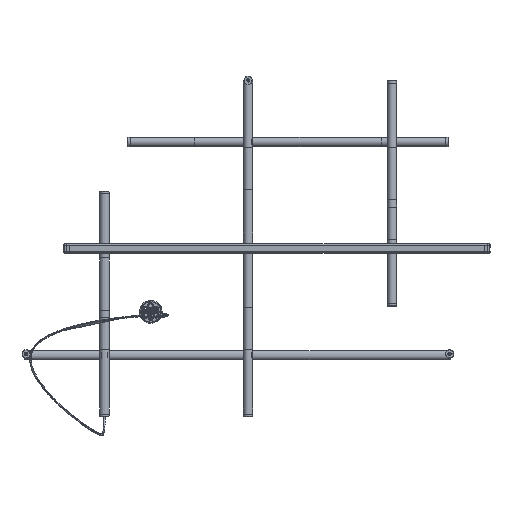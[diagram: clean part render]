
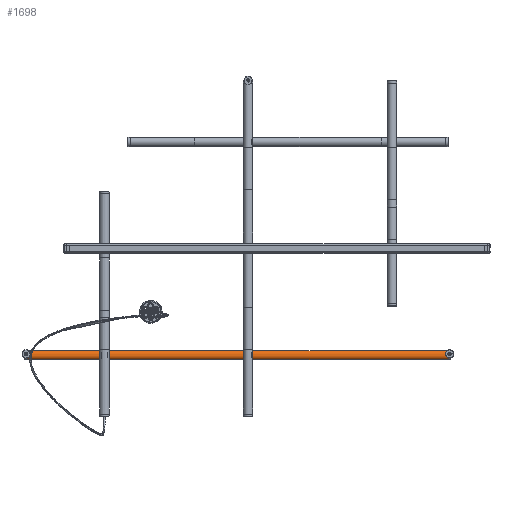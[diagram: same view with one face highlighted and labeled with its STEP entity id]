
A CAD part, top view. The second image highlights one B-rep face of the part: STEP entity #1698.
In plain terms, the highlighted free-form (B-spline) face has degree [1, 2] with [2, 5] control points.
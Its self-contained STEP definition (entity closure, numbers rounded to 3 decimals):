
#1698=ADVANCED_FACE('',(#5350),#53960,.T.);
#5350=FACE_OUTER_BOUND('',#9002,.T.);
#9002=EDGE_LOOP('',(#16573,#16574,#16575,#16576));
#16573=ORIENTED_EDGE('',*,*,#31570,.F.);
#16574=ORIENTED_EDGE('',*,*,#31569,.F.);
#16575=ORIENTED_EDGE('',*,*,#31568,.T.);
#16576=ORIENTED_EDGE('',*,*,#31543,.T.);
#31543=EDGE_CURVE('',#47924,#47925,#44218,.T.);
#31568=EDGE_CURVE('',#47942,#47924,#39051,.T.);
#31569=EDGE_CURVE('',#47942,#47943,#44231,.T.);
#31570=EDGE_CURVE('',#47943,#47925,#39052,.T.);
#39051=B_SPLINE_CURVE_WITH_KNOTS('',1,(#75005,#75006),.UNSPECIFIED.,.F.,
 .F.,(2,2),(-1023.816,0.),.UNSPECIFIED.);
#39052=B_SPLINE_CURVE_WITH_KNOTS('',1,(#75012,#75013),.UNSPECIFIED.,.F.,
 .F.,(2,2),(-1023.816,0.),.UNSPECIFIED.);
#44218=(
BOUNDED_CURVE()
B_SPLINE_CURVE(2,(#74934,#74935,#74936,#74937,#74938),.UNSPECIFIED.,.F.,
 .F.)
B_SPLINE_CURVE_WITH_KNOTS((3,2,3),(10.956,12.526,14.097),
 .UNSPECIFIED.)
CURVE()
GEOMETRIC_REPRESENTATION_ITEM()
RATIONAL_B_SPLINE_CURVE((1.,0.707,1.,0.707,1.))
REPRESENTATION_ITEM('')
);
#44231=(
BOUNDED_CURVE()
B_SPLINE_CURVE(2,(#75007,#75008,#75009,#75010,#75011),.UNSPECIFIED.,.F.,
 .F.)
B_SPLINE_CURVE_WITH_KNOTS((3,2,3),(10.956,12.526,14.097),
 .UNSPECIFIED.)
CURVE()
GEOMETRIC_REPRESENTATION_ITEM()
RATIONAL_B_SPLINE_CURVE((1.,0.707,1.,0.707,1.))
REPRESENTATION_ITEM('')
);
#47924=VERTEX_POINT('',#74883);
#47925=VERTEX_POINT('',#74884);
#47942=VERTEX_POINT('',#74901);
#47943=VERTEX_POINT('',#74902);
#53960=(
BOUNDED_SURFACE()
B_SPLINE_SURFACE(1,2,((#74817,#74818,#74819,#74820,#74821),(#74822,#74823,
#74824,#74825,#74826)),.UNSPECIFIED.,.F.,.F.,.F.)
B_SPLINE_SURFACE_WITH_KNOTS((2,2),(3,2,3),(0.,1023.816),(-14.097,
-12.526,-10.956),.UNSPECIFIED.)
GEOMETRIC_REPRESENTATION_ITEM()
RATIONAL_B_SPLINE_SURFACE(((1.,0.707,1.,0.707,1.),
(1.,0.707,1.,0.707,1.)))
REPRESENTATION_ITEM('')
SURFACE()
);
#74817=CARTESIAN_POINT('',(2258.,-271.,-78.719));
#74818=CARTESIAN_POINT('',(2258.,-271.,-67.219));
#74819=CARTESIAN_POINT('',(2258.,-259.5,-67.219));
#74820=CARTESIAN_POINT('',(2258.,-248.,-67.219));
#74821=CARTESIAN_POINT('',(2258.,-248.,-78.719));
#74822=CARTESIAN_POINT('',(3281.816,-271.,-78.719));
#74823=CARTESIAN_POINT('',(3281.816,-271.,-67.219));
#74824=CARTESIAN_POINT('',(3281.816,-259.5,-67.219));
#74825=CARTESIAN_POINT('',(3281.816,-248.,-67.219));
#74826=CARTESIAN_POINT('',(3281.816,-248.,-78.719));
#74883=CARTESIAN_POINT('',(2258.,-248.,-78.719));
#74884=CARTESIAN_POINT('',(2258.,-271.,-78.719));
#74901=CARTESIAN_POINT('',(3281.816,-248.,-78.719));
#74902=CARTESIAN_POINT('',(3281.816,-271.,-78.719));
#74934=CARTESIAN_POINT('',(2258.,-248.,-78.719));
#74935=CARTESIAN_POINT('',(2258.,-248.,-67.219));
#74936=CARTESIAN_POINT('',(2258.,-259.5,-67.219));
#74937=CARTESIAN_POINT('',(2258.,-271.,-67.219));
#74938=CARTESIAN_POINT('',(2258.,-271.,-78.719));
#75005=CARTESIAN_POINT('',(3281.816,-248.,-78.719));
#75006=CARTESIAN_POINT('',(2258.,-248.,-78.719));
#75007=CARTESIAN_POINT('',(3281.816,-248.,-78.719));
#75008=CARTESIAN_POINT('',(3281.816,-248.,-67.219));
#75009=CARTESIAN_POINT('',(3281.816,-259.5,-67.219));
#75010=CARTESIAN_POINT('',(3281.816,-271.,-67.219));
#75011=CARTESIAN_POINT('',(3281.816,-271.,-78.719));
#75012=CARTESIAN_POINT('',(3281.816,-271.,-78.719));
#75013=CARTESIAN_POINT('',(2258.,-271.,-78.719));
